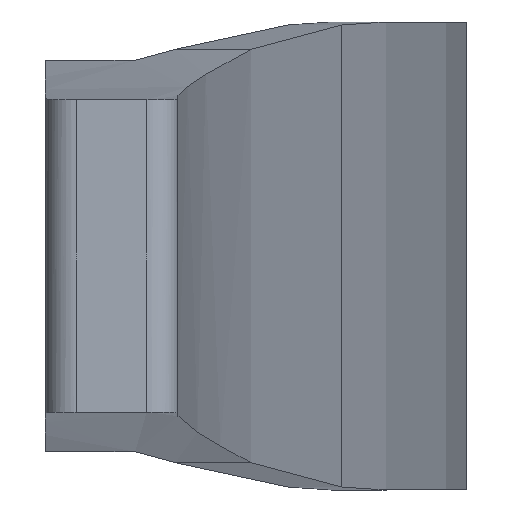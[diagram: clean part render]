
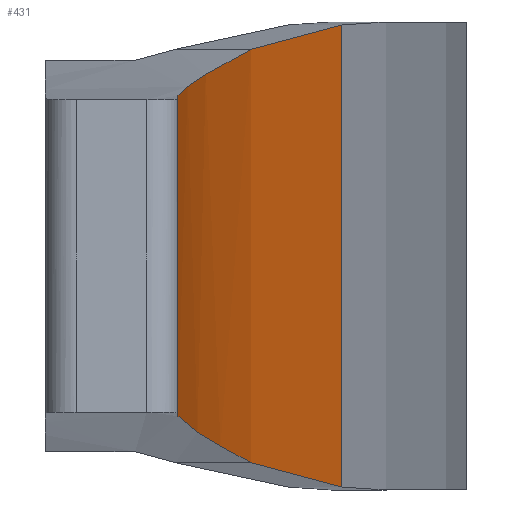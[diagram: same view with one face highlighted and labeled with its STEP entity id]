
A CAD part, left-side view. The second image highlights one B-rep face of the part: STEP entity #431.
In plain terms, the highlighted cylindrical face has radius 113.141 mm (diameter 226.282 mm), a partial arc.
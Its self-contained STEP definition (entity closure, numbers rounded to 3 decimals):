
#221 = VERTEX_POINT( '', #610 );
#263 = VERTEX_POINT( '', #655 );
#293 = EDGE_CURVE( '', #443, #221, #690, .T. );
#367 = EDGE_CURVE( '', #543, #385, #769, .T. );
#385 = VERTEX_POINT( '', #788 );
#431 = ADVANCED_FACE( '', ( #839 ), #840, .F. );
#437 = EDGE_CURVE( '', #517, #263, #846, .T. );
#443 = VERTEX_POINT( '', #853 );
#477 = EDGE_CURVE( '', #221, #263, #890, .T. );
#503 = EDGE_CURVE( '', #517, #543, #917, .T. );
#507 = EDGE_CURVE( '', #385, #443, #921, .T. );
#517 = VERTEX_POINT( '', #932 );
#543 = VERTEX_POINT( '', #959 );
#610 = CARTESIAN_POINT( '', ( 8.802, -13.202, -13.252 ) );
#655 = CARTESIAN_POINT( '', ( 24., -19., -14.806 ) );
#690 = B_SPLINE_CURVE_WITH_KNOTS( '', 3, ( #1203, #1204, #1205, #1206, #1207, #1208, #1209, #1210 ), .UNSPECIFIED., .F., .F., ( 4, 2, 2, 4 ), ( 73.894, 81.09, 94.605, 101.664 ), .UNSPECIFIED. );
#769 = B_SPLINE_CURVE_WITH_KNOTS( '', 3, ( #1351, #1352, #1353, #1354, #1355, #1356, #1357, #1358 ), .UNSPECIFIED., .F., .F., ( 4, 2, 2, 4 ), ( 6.456, 13.515, 27.03, 34.226 ), .UNSPECIFIED. );
#788 = CARTESIAN_POINT( '', ( -19., -8.5, 10.265 ) );
#839 = FACE_OUTER_BOUND( '', #1499, .T. );
#840 = CYLINDRICAL_SURFACE( '', #1500, 113.141 );
#846 = LINE( '', #1510, #1511 );
#853 = CARTESIAN_POINT( '', ( -19., -8.5, -10.265 ) );
#890 = B_SPLINE_CURVE_WITH_KNOTS( '', 3, ( #1615, #1616, #1617, #1618, #1619, #1620, #1621, #1622 ), .UNSPECIFIED., .F., .F., ( 4, 2, 2, 4 ), ( 90.536, 95.302, 101.878, 106.154 ), .UNSPECIFIED. );
#917 = B_SPLINE_CURVE_WITH_KNOTS( '', 3, ( #1671, #1672, #1673, #1674, #1675, #1676, #1677, #1678 ), .UNSPECIFIED., .F., .F., ( 4, 2, 2, 4 ), ( 2.301, 6.576, 13.152, 17.918 ), .UNSPECIFIED. );
#921 = LINE( '', #1691, #1692 );
#932 = CARTESIAN_POINT( '', ( 24., -19., 14.806 ) );
#959 = CARTESIAN_POINT( '', ( 8.802, -13.202, 13.252 ) );
#1203 = CARTESIAN_POINT( '', ( -19., -8.5, -10.265 ) );
#1204 = CARTESIAN_POINT( '', ( -16.528, -8.605, -10.417 ) );
#1205 = CARTESIAN_POINT( '', ( -14.065, -8.792, -10.598 ) );
#1206 = CARTESIAN_POINT( '', ( -7.023, -9.556, -11.201 ) );
#1207 = CARTESIAN_POINT( '', ( -2.485, -10.334, -11.696 ) );
#1208 = CARTESIAN_POINT( '', ( 4.264, -11.912, -12.579 ) );
#1209 = CARTESIAN_POINT( '', ( 6.55, -12.524, -12.905 ) );
#1210 = CARTESIAN_POINT( '', ( 8.802, -13.202, -13.252 ) );
#1351 = CARTESIAN_POINT( '', ( 8.802, -13.202, 13.252 ) );
#1352 = CARTESIAN_POINT( '', ( 6.55, -12.524, 12.905 ) );
#1353 = CARTESIAN_POINT( '', ( 4.264, -11.912, 12.579 ) );
#1354 = CARTESIAN_POINT( '', ( -2.485, -10.334, 11.696 ) );
#1355 = CARTESIAN_POINT( '', ( -7.023, -9.556, 11.201 ) );
#1356 = CARTESIAN_POINT( '', ( -14.065, -8.792, 10.598 ) );
#1357 = CARTESIAN_POINT( '', ( -16.528, -8.605, 10.417 ) );
#1358 = CARTESIAN_POINT( '', ( -19., -8.5, 10.265 ) );
#1499 = EDGE_LOOP( '', ( #2076, #2077, #2078, #2079, #2080, #2081 ) );
#1500 = AXIS2_PLACEMENT_3D( '', #2082, #2083, #2084 );
#1510 = CARTESIAN_POINT( '', ( 24., -19., 15. ) );
#1511 = VECTOR( '', #2089, 1. );
#1615 = CARTESIAN_POINT( '', ( 8.802, -13.202, -13.252 ) );
#1616 = CARTESIAN_POINT( '', ( 10.414, -13.688, -13.5 ) );
#1617 = CARTESIAN_POINT( '', ( 12.013, -14.209, -13.72 ) );
#1618 = CARTESIAN_POINT( '', ( 15.771, -15.525, -14.175 ) );
#1619 = CARTESIAN_POINT( '', ( 17.912, -16.351, -14.386 ) );
#1620 = CARTESIAN_POINT( '', ( 21.357, -17.798, -14.654 ) );
#1621 = CARTESIAN_POINT( '', ( 22.692, -18.39, -14.739 ) );
#1622 = CARTESIAN_POINT( '', ( 24., -19., -14.806 ) );
#1671 = CARTESIAN_POINT( '', ( 24., -19., 14.806 ) );
#1672 = CARTESIAN_POINT( '', ( 22.692, -18.39, 14.739 ) );
#1673 = CARTESIAN_POINT( '', ( 21.357, -17.798, 14.654 ) );
#1674 = CARTESIAN_POINT( '', ( 17.912, -16.351, 14.386 ) );
#1675 = CARTESIAN_POINT( '', ( 15.771, -15.525, 14.175 ) );
#1676 = CARTESIAN_POINT( '', ( 12.013, -14.209, 13.72 ) );
#1677 = CARTESIAN_POINT( '', ( 10.414, -13.688, 13.5 ) );
#1678 = CARTESIAN_POINT( '', ( 8.802, -13.202, 13.252 ) );
#1691 = CARTESIAN_POINT( '', ( -19., -8.5, 15. ) );
#1692 = VECTOR( '', #2149, 1. );
#2076 = ORIENTED_EDGE( '', *, *, #477, .T. );
#2077 = ORIENTED_EDGE( '', *, *, #437, .F. );
#2078 = ORIENTED_EDGE( '', *, *, #503, .T. );
#2079 = ORIENTED_EDGE( '', *, *, #367, .T. );
#2080 = ORIENTED_EDGE( '', *, *, #507, .T. );
#2081 = ORIENTED_EDGE( '', *, *, #293, .T. );
#2082 = CARTESIAN_POINT( '', ( -23.82, -121.538, 15. ) );
#2083 = DIRECTION( '', ( 0., 0., 1. ) );
#2084 = DIRECTION( '', ( 0.043, 0.999, 0. ) );
#2089 = DIRECTION( '', ( 0., 0., -1. ) );
#2149 = DIRECTION( '', ( 0., 0., -1. ) );
